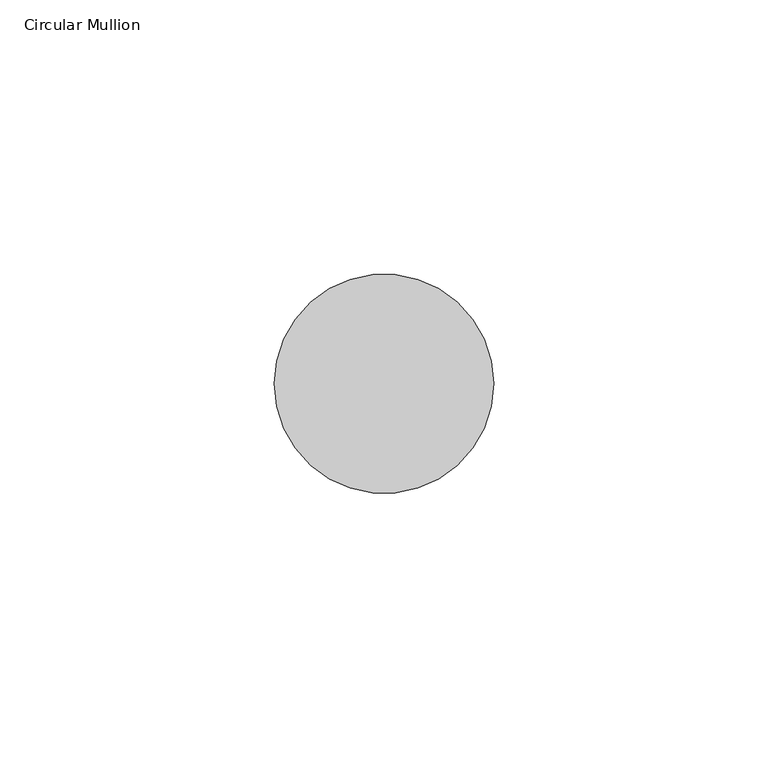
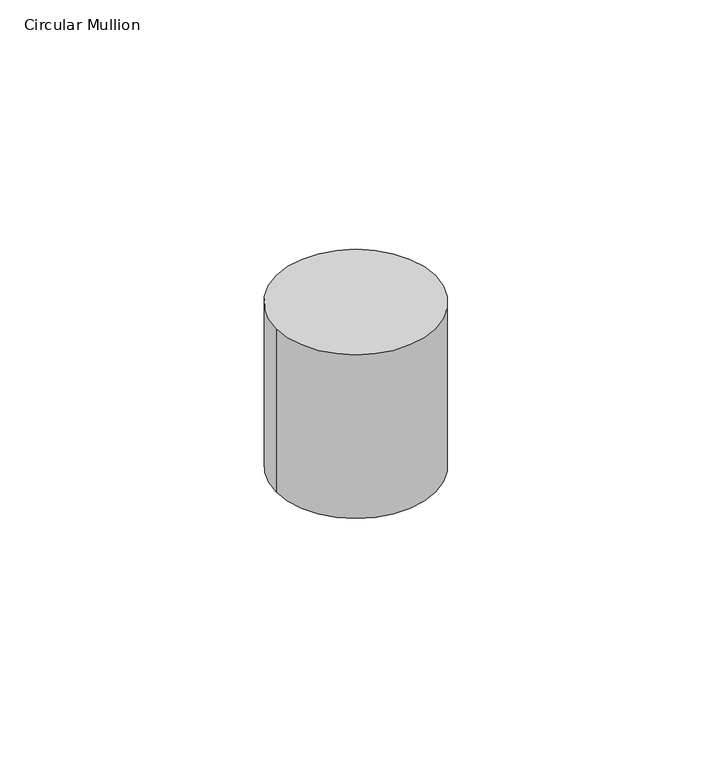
"""IFC4 building model written with IfcOpenShell, lengths in millimetres: member geometry, Circular Mullion : GRADIL 40mm."""

import ifcopenshell
import ifcopenshell.guid

model = None  # the IFC model being written
_history = None  # IfcOwnerHistory: only IFC2X3 demands one
_inside = {}  # id of a spatial element -> (the spatial element, [elements in it])
_under = {}  # id of a project, library or spatial element -> (it, [spatial elements below it])
_declared = {}  # id of a project -> (the project, [libraries it declares])
_typed = {}  # id of a type object -> (the type object, [elements of that type])
_made_of = {}  # id of a material, layer set ... -> (it, [elements and type objects made of it])


def new_model(schema):
    """Start an empty IFC model of exactly this schema.

    Asked for "IFC4X3", IfcOpenShell would pick the latest addendum, in which some entities
    have other attributes; the version numbers below select the first issue.
    IFC2X3 requires an IfcOwnerHistory on every rooted entity: one is made here for all.
    """
    global model, _history
    if schema == "IFC4X3":
        model = ifcopenshell.file(schema_version=(4, 3, 0, 0))
    else:
        model = ifcopenshell.file(schema=schema)
    _inside.clear()
    _under.clear()
    _declared.clear()
    _typed.clear()
    _made_of.clear()
    _history = None
    if model.schema == "IFC2X3":
        org = make("IfcOrganization", Name="unknown")
        user = make(
            "IfcPersonAndOrganization",
            ThePerson=make("IfcPerson", FamilyName="unknown"),
            TheOrganization=org,
        )
        app = make(
            "IfcApplication",
            ApplicationDeveloper=org,
            Version="unknown",
            ApplicationFullName="unknown",
            ApplicationIdentifier="unknown",
        )
        _history = make(
            "IfcOwnerHistory",
            OwningUser=user,
            OwningApplication=app,
            ChangeAction="ADDED",
            CreationDate=0,
        )
    return model


def make(cls, **values):
    """One entity of the class cls with the attributes given. An attribute that is None is left unset."""
    return model.create_entity(
        cls, **{name: value for name, value in values.items() if value is not None}
    )


def rooted(cls, **values):
    """An entity with a GlobalId (a new one), such as an element, a storey or a relation."""
    return make(cls, GlobalId=ifcopenshell.guid.new(), OwnerHistory=_history, **values)


def si_unit(unit_type, name, prefix=None):
    """IfcSIUnit, for example si_unit("LENGTHUNIT", "METRE", prefix="MILLI")."""
    return make("IfcSIUnit", UnitType=unit_type, Prefix=prefix, Name=name)


def assignment(units):
    """IfcUnitAssignment: the units of a project."""
    return None if units is None else make("IfcUnitAssignment", Units=units)


def point(xyz):
    """IfcCartesianPoint."""
    return None if xyz is None else make("IfcCartesianPoint", Coordinates=xyz)


def direction(xyz):
    """IfcDirection."""
    return None if xyz is None else make("IfcDirection", DirectionRatios=xyz)


def frame(location, z_axis=None, x_axis=None):
    """IfcAxis2Placement3D, a coordinate frame: its origin and axes. An axis left out is left unset."""
    return make(
        "IfcAxis2Placement3D",
        Location=point(location),
        Axis=direction(z_axis),
        RefDirection=direction(x_axis),
    )


def frame_2d(location, x_axis=None):
    """IfcAxis2Placement2D, a coordinate frame in the plane: its origin and x axis."""
    return make(
        "IfcAxis2Placement2D", Location=point(location), RefDirection=direction(x_axis)
    )


def origin():
    """The frame at (0, 0, 0) with its axes left unset."""
    return frame((0.0, 0.0, 0.0))


def origin_2d():
    """The frame at (0, 0) in the plane with its x axis left unset."""
    return frame_2d((0.0, 0.0))


def place(relative_to, where):
    """IfcLocalPlacement: puts the frame where relative to a parent placement (None: the world)."""
    return make(
        "IfcLocalPlacement", PlacementRelTo=relative_to, RelativePlacement=where
    )


def context(
    kind, dimensions, precision=None, world=None, true_north=None, identifier=None
):
    """IfcGeometricRepresentationContext, for example the 3D "Model" context."""
    return make(
        "IfcGeometricRepresentationContext",
        ContextIdentifier=identifier,
        ContextType=kind,
        CoordinateSpaceDimension=dimensions,
        Precision=precision,
        WorldCoordinateSystem=world,
        TrueNorth=true_north,
    )


def project(units=None, contexts=None):
    """IfcProject with its units and contexts."""
    return rooted(
        "IfcProject",
        Name="project",
        RepresentationContexts=contexts,
        UnitsInContext=assignment(units),
    )


def spatial(cls, under=None, at=None, **own):
    """A site, building, storey or space (cls), placed at a placement, below another one or the project."""
    s = rooted(cls, ObjectPlacement=at, **own)
    if under is not None:
        _under.setdefault(under.id(), (under, []))[1].append(s)
    return s


def circle_curve(where, radius):
    """IfcCircle in the frame where."""
    return make("IfcCircle", Position=where, Radius=radius)


def trimmed(basis, trim1, trim2, sense, master):
    """IfcTrimmedCurve: the piece of a basis curve between two trims."""
    return make(
        "IfcTrimmedCurve",
        BasisCurve=basis,
        Trim1=trim1,
        Trim2=trim2,
        SenseAgreement=sense,
        MasterRepresentation=master,
    )


def segment(curve, same_sense, transition):
    """IfcCompositeCurveSegment."""
    return make(
        "IfcCompositeCurveSegment",
        Transition=transition,
        SameSense=same_sense,
        ParentCurve=curve,
    )


def composite_curve(segments, self_intersect=None):
    """IfcCompositeCurve: segments joined end to end."""
    return make("IfcCompositeCurve", Segments=segments, SelfIntersect=self_intersect)


def outline(outer, holes=None, kind="AREA"):
    """IfcArbitraryClosedProfileDef: a profile drawn as a closed curve; with holes, ...WithVoids."""
    if holes is None:
        return make("IfcArbitraryClosedProfileDef", ProfileType=kind, OuterCurve=outer)
    return make(
        "IfcArbitraryProfileDefWithVoids",
        ProfileType=kind,
        OuterCurve=outer,
        InnerCurves=holes,
    )


def extrude(swept, where, along, depth):
    """IfcExtrudedAreaSolid: the profile swept, set in the frame where, extruded along a direction by depth."""
    return make(
        "IfcExtrudedAreaSolid",
        SweptArea=swept,
        Position=where,
        ExtrudedDirection=direction(along),
        Depth=depth,
    )


def shape(context_of_items, identifier, shape_type, items):
    """IfcShapeRepresentation: the items that make up one representation, for example the "Body"."""
    return make(
        "IfcShapeRepresentation",
        ContextOfItems=context_of_items,
        RepresentationIdentifier=identifier,
        RepresentationType=shape_type,
        Items=items,
    )


def source(mapping_origin, context_of_items, identifier, shape_type, items):
    """IfcRepresentationMap: a shape defined once, which mapped items show again and again."""
    return make(
        "IfcRepresentationMap",
        MappingOrigin=mapping_origin,
        MappedRepresentation=shape(context_of_items, identifier, shape_type, items),
    )


def transform(
    local_origin,
    x_axis=None,
    y_axis=None,
    z_axis=None,
    scale=None,
    scale2=None,
    scale3=None,
    uniform=True,
):
    """IfcCartesianTransformationOperator3D, or its non-uniform kind. x_axis, y_axis, z_axis: its Axis1, 2, 3."""
    if uniform:
        return make(
            "IfcCartesianTransformationOperator3D",
            Axis1=direction(x_axis),
            Axis2=direction(y_axis),
            LocalOrigin=point(local_origin),
            Scale=scale,
            Axis3=direction(z_axis),
        )
    return make(
        "IfcCartesianTransformationOperator3DnonUniform",
        Axis1=direction(x_axis),
        Axis2=direction(y_axis),
        LocalOrigin=point(local_origin),
        Scale=scale,
        Axis3=direction(z_axis),
        Scale2=scale2,
        Scale3=scale3,
    )


def mapped(mapping_source, mapping_target):
    """IfcMappedItem: shows the shape of a source again, moved by a transform."""
    return make(
        "IfcMappedItem", MappingSource=mapping_source, MappingTarget=mapping_target
    )


def made_of(thing, what):
    """Note that an element or type object is made of a material, layer set ...; save() writes the relation."""
    if what is not None:
        _made_of.setdefault(what.id(), (what, []))[1].append(thing)
    return thing


def element(
    cls,
    number,
    at=None,
    inside=None,
    cuts=None,
    type_object=None,
    material=None,
    context=None,
    identifier="Body",
    shape_type=None,
    held_by="IfcProductDefinitionShape",
    body=None,
    shapes=None,
    **own,
):
    """One element of the class cls, such as IfcWall. Its Tag is "e" and its number.

    at: its placement. inside: the storey or other place that contains it. cuts: it is an
    opening in that element (IfcRelVoidsElement). A single representation is given by context,
    identifier, shape_type and body (its items); several are given by shapes. held_by: the class
    of the entity that holds the representations. save() writes the other relations.
    """
    e = rooted(cls, Tag="e%d" % number, ObjectPlacement=at, **own)
    if body is not None:
        shapes = [shape(context, identifier, shape_type, body)]
    if shapes is not None:
        e.Representation = make(held_by, Representations=shapes)
    if inside is not None:
        _inside.setdefault(inside.id(), (inside, []))[1].append(e)
    if cuts is not None:
        rooted(
            "IfcRelVoidsElement", RelatingBuildingElement=cuts, RelatedOpeningElement=e
        )
    if type_object is not None:
        _typed.setdefault(type_object.id(), (type_object, []))[1].append(e)
    return made_of(e, material)


def aggregate(whole, parts):
    """IfcRelAggregates: a whole, such as a stair, and the parts it consists of."""
    return rooted("IfcRelAggregates", RelatingObject=whole, RelatedObjects=parts)


def save(model, path):
    """Write the relations noted so far, then the file.

    IfcRelAggregates (storeys below a building ...), IfcRelContainedInSpatialStructure (elements
    in a storey), IfcRelDefinesByType, IfcRelAssociatesMaterial and IfcRelDeclares: one each for
    every whole, place, type object, material and project.
    """
    for whole, parts in _under.values():
        aggregate(whole, parts)
    for where, things in _inside.values():
        rooted(
            "IfcRelContainedInSpatialStructure",
            RelatedElements=things,
            RelatingStructure=where,
        )
    for kind, things in _typed.values():
        rooted("IfcRelDefinesByType", RelatedObjects=things, RelatingType=kind)
    for what, things in _made_of.values():
        rooted("IfcRelAssociatesMaterial", RelatedObjects=things, RelatingMaterial=what)
    for by, libraries in _declared.values():
        rooted("IfcRelDeclares", RelatingContext=by, RelatedDefinitions=libraries)
    model.write(path)


def circular_mullion_437031f2(model_context):
    return source(origin(), model_context, "Body", "SweptSolid", [
        extrude(outline(composite_curve([segment(trimmed(circle_curve(origin_2d(), 20.0), [point((20.0, 0.0))], [point((-20.0, 0.0))], False, "CARTESIAN"), True, "CONTINUOUS"), segment(trimmed(circle_curve(origin_2d(), 20.0), [point((-20.0, 0.0))], [point((20.0, 0.0))], False, "CARTESIAN"), True, "CONTINUOUS")], self_intersect=False)), frame((0.0, 0.0, -43.421292), z_axis=(0.0, 0.0, 1.0), x_axis=(1.0, 0.0, 0.0)), (0.0, 0.0, 1.0), 43.421292),
    ])


if __name__ == "__main__":
    model = new_model("IFC4")
    model_context = context("Model", 3, world=origin())
    ifc_project = project(units=[si_unit("LENGTHUNIT", "METRE", prefix="MILLI")], contexts=[model_context])
    site = spatial("IfcSite", under=ifc_project)
    building = spatial("IfcBuilding", under=site)
    placement = place(None, origin())
    circular_mullion_shape = circular_mullion_437031f2(model_context)
    element("IfcMember", 1, ObjectType="Circular Mullion : GRADIL 40mm", at=placement, inside=building, context=model_context, shape_type="MappedRepresentation", body=[
        mapped(circular_mullion_shape, transform((0.0, 0.0, 0.0), x_axis=(1.0, 0.0, 0.0), y_axis=(0.0, 1.0, 0.0), z_axis=(0.0, 0.0, 1.0))),
    ])
    save(model, "model.ifc")
